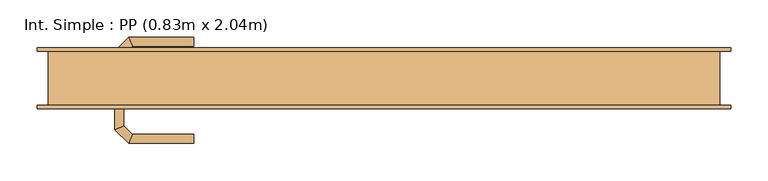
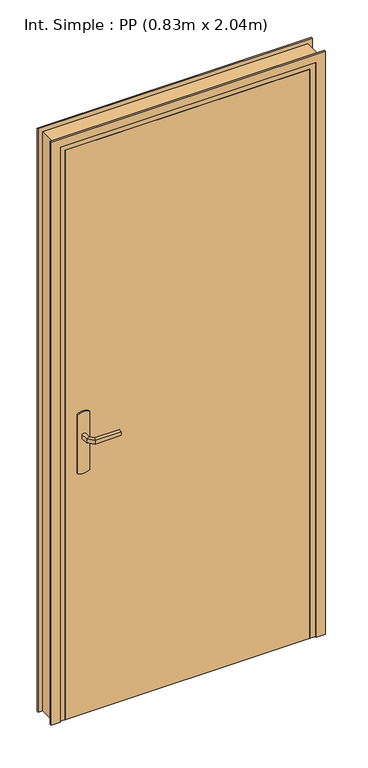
"""IFC4 building model written with IfcOpenShell, lengths in millimetres: door geometry, Int. Simple : PP (0.83m x 2.04m)."""

from ifc_helpers import new_model, si_unit, point, frame, frame_2d, origin, origin_with_axes, place, context, project, spatial, polyline, circle_curve, ellipse_curve, trimmed, segment, composite_curve, outline, extrude, faceted_brep, source, transform, mapped, element, save
from ifc_brep_helpers import plane_surface, cylinder_surface, advanced_brep


def int_simple_pp_0_83m_x_2_04m_f50dcbdd(model_context):
    return source(origin(), model_context, "Body", "SolidModel", [
        extrude(outline(composite_curve([segment(trimmed(circle_curve(frame_2d((904.6410162, -390.0)), 40.0), [point((870.0, -410.0))], [point((870.0, -370.0))], False, "CARTESIAN"), True, "CONTINUOUS"), segment(polyline([(870.0, -370.0), (1080.0, -370.0)]), True, "CONTINUOUS"), segment(trimmed(circle_curve(frame_2d((1045.3589838, -390.0)), 40.0), [point((1080.0, -370.0))], [point((1080.0, -410.0))], False, "CARTESIAN"), True, "CONTINUOUS"), segment(polyline([(1080.0, -410.0), (870.0, -410.0)]), True, "CONTINUOUS")], self_intersect=False)), frame((0.0, -41.0, 0.0), z_axis=(0.0, 1.0, 0.0), x_axis=(0.0, 0.0, 1.0)), (0.0, 0.0, 1.0), 5.0),
        extrude(outline(composite_curve([segment(trimmed(circle_curve(frame_2d((1045.3589838, -390.0)), 40.0), [point((1080.0, -370.0))], [point((1080.0, -410.0))], False, "CARTESIAN"), True, "CONTINUOUS"), segment(polyline([(1080.0, -410.0), (870.0, -410.0)]), True, "CONTINUOUS"), segment(trimmed(circle_curve(frame_2d((904.6410162, -390.0)), 40.0), [point((870.0, -410.0))], [point((870.0, -370.0))], False, "CARTESIAN"), True, "CONTINUOUS"), segment(polyline([(870.0, -370.0), (1080.0, -370.0)]), True, "CONTINUOUS")], self_intersect=False)), frame((0.0, 4.0, 0.0), z_axis=(0.0, 1.0, 0.0), x_axis=(0.0, 0.0, 1.0)), (0.0, 0.0, 1.0), 5.0),
        advanced_brep(
        [(-396.0, -41.0, 1007.0), (-384.0, -41.0, 1007.0), (-384.0, -41.0, 993.0), (-396.0, -41.0, 993.0), (-396.0, -68.6509507, 1007.0), (-384.0, -63.680388, 1007.0), (-384.0, -63.680388, 993.0), (-396.0, -68.6509507, 993.0), (-377.62279, -87.0281607, 1007.0), (-372.6522273, -75.0281607, 1007.0), (-372.6522273, -75.0281607, 993.0), (-377.62279, -87.0281607, 993.0), (-289.9813594, -87.0281607, 1007.0), (-289.9813594, -87.0281607, 993.0), (-289.9813594, -75.0281607, 993.0), (-289.9813594, -75.0281607, 1007.0)],
        [
            (0, 1, circle_curve(frame((-390.0, -41.0, 986.9542278), z_axis=(0.0, 1.0, 0.0), x_axis=(1.0, 0.0, 0.0)), 20.9244589)),
            (1, 2),
            (2, 3, circle_curve(frame((-390.0, -41.0, 1013.0457722), z_axis=(0.0, 1.0, 0.0), x_axis=(1.0, 0.0, 0.0)), 20.9244589)),
            (3, 0),
            (0, 4),
            (4, 5, ellipse_curve(frame((-390.0, -66.1656693, 986.9542278), z_axis=(-0.3826834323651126, 0.9238795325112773, 0.0), x_axis=(0.9238795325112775, 0.38268343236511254, 0.0)), 22.6484711, 20.9244589)),
            (5, 1),
            (5, 6),
            (6, 2),
            (6, 7, ellipse_curve(frame((-390.0, -66.1656693, 1013.0457722), z_axis=(-0.3826834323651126, 0.9238795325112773, 0.0), x_axis=(0.9238795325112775, 0.38268343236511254, 0.0)), 22.6484711, 20.9244589)),
            (7, 3),
            (7, 4),
            (4, 8),
            (8, 9, ellipse_curve(frame((-375.1375086, -81.0281607, 986.9542278), z_axis=(-0.9238795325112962, 0.38268343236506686, 0.0), x_axis=(0.3826834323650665, 0.9238795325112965, 0.0)), 22.6484711, 20.9244589)),
            (9, 5),
            (9, 10),
            (10, 6),
            (10, 11, ellipse_curve(frame((-375.1375086, -81.0281607, 1013.0457722), z_axis=(-0.9238795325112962, 0.38268343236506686, 0.0), x_axis=(0.3826834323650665, 0.9238795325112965, 0.0)), 22.6484711, 20.9244589)),
            (11, 7),
            (11, 8),
            (12, 13),
            (13, 14, circle_curve(frame((-289.9813594, -81.0281607, 1013.0457722), z_axis=(1.0, 0.0, 0.0), x_axis=(0.0, 1.0, 0.0)), 20.9244589)),
            (14, 15),
            (15, 12, circle_curve(frame((-289.9813594, -81.0281607, 986.9542278), z_axis=(1.0, 0.0, 0.0), x_axis=(0.0, 1.0, 0.0)), 20.9244589)),
            (8, 12),
            (15, 9),
            (14, 10),
            (13, 11),
        ],
        [
            plane_surface(frame((-399.2195445, -41.0, 1000.0), z_axis=(0.0, 1.0, 0.0), x_axis=(0.0, 0.0, -1.0))),
            cylinder_surface(frame((-390.0, -41.0, 986.9542278), z_axis=(0.0, 1.0, 0.0), x_axis=(1.0, 0.0, 0.0)), 20.9244589),
            plane_surface(frame((-384.0, -41.0, 1007.0), z_axis=(1.0, 0.0, 0.0), x_axis=(0.0, -1.0, 0.0))),
            cylinder_surface(frame((-390.0, -41.0, 1013.0457722), z_axis=(0.0, 1.0, 0.0), x_axis=(1.0, 0.0, 0.0)), 20.9244589),
            plane_surface(frame((-396.0, -41.0, 993.0), z_axis=(-1.0, 0.0, 0.0), x_axis=(0.0, -1.0, 0.0))),
            cylinder_surface(frame((-390.0, -66.1656693, 986.9542278), z_axis=(-0.7071067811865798, 0.7071067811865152, 0.0), x_axis=(0.7071067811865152, 0.7071067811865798, 0.0)), 20.9244589),
            plane_surface(frame((-384.0, -63.680388, 1007.0), z_axis=(0.7071067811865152, 0.7071067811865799, 0.0), x_axis=(0.7071067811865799, -0.7071067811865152, 0.0))),
            cylinder_surface(frame((-390.0, -66.1656693, 1013.0457722), z_axis=(-0.7071067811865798, 0.7071067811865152, 0.0), x_axis=(0.7071067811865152, 0.7071067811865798, 0.0)), 20.9244589),
            plane_surface(frame((-396.0, -68.6509507, 993.0), z_axis=(-0.7071067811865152, -0.7071067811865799, 0.0), x_axis=(0.7071067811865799, -0.7071067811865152, 0.0))),
            plane_surface(frame((-289.9813594, -81.0281607, 990.7804555), z_axis=(1.0, 0.0, 0.0), x_axis=(0.0, 1.0, 0.0))),
            cylinder_surface(frame((-375.1375086, -81.0281607, 986.9542278), z_axis=(-1.0, 0.0, 0.0), x_axis=(0.0, 1.0, 0.0)), 20.9244589),
            plane_surface(frame((-372.6522273, -75.0281607, 1007.0), z_axis=(0.0, 1.0, 0.0), x_axis=(1.0, 0.0, 0.0))),
            cylinder_surface(frame((-375.1375086, -81.0281607, 1013.0457722), z_axis=(-1.0, 0.0, 0.0), x_axis=(0.0, 1.0, 0.0)), 20.9244589),
            plane_surface(frame((-377.62279, -87.0281607, 993.0), z_axis=(0.0, -1.0, 0.0), x_axis=(1.0, 0.0, 0.0))),
        ],
        [
            (0, [[1, 2, 3, 4]]),
            (1, [[-1, 5, 6, 7]]),
            (2, [[-2, -7, 8, 9]]),
            (3, [[-3, -9, 10, 11]]),
            (4, [[-4, -11, 12, -5]]),
            (5, [[-6, 13, 14, 15]]),
            (6, [[-8, -15, 16, 17]]),
            (7, [[-10, -17, 18, 19]]),
            (8, [[-12, -19, 20, -13]]),
            (9, [[21, 22, 23, 24]]),
            (10, [[-14, 25, -24, 26]]),
            (11, [[-16, -26, -23, 27]]),
            (12, [[-18, -27, -22, 28]]),
            (13, [[-20, -28, -21, -25]]),
        ],
    ),
        advanced_brep(
        [(-384.0, 9.0, 993.0), (-384.0, 9.0, 1007.0), (-396.0, 9.0, 1007.0), (-396.0, 9.0, 993.0), (-384.0, 31.4852045, 993.0), (-384.0, 31.4852045, 1007.0), (-396.0, 36.4557673, 1007.0), (-396.0, 36.4557673, 993.0), (-372.5147186, 42.9704859, 993.0), (-372.5147186, 42.9704859, 1007.0), (-377.4852814, 54.9704859, 1007.0), (-377.4852814, 54.9704859, 993.0), (-289.9542163, 42.9704859, 993.0), (-289.9542163, 54.9704859, 993.0), (-289.9542163, 54.9704859, 1007.0), (-289.9542163, 42.9704859, 1007.0)],
        [
            (0, 1),
            (1, 2, circle_curve(frame((-390.0, 9.0, 986.9542278), z_axis=(0.0, -1.0, 0.0), x_axis=(-1.0, 0.0, 0.0)), 20.9244589)),
            (2, 3),
            (3, 0, circle_curve(frame((-390.0, 9.0, 1013.0457722), z_axis=(0.0, -1.0, 0.0), x_axis=(-1.0, 0.0, 0.0)), 20.9244589)),
            (0, 4),
            (4, 5),
            (5, 1),
            (5, 6, ellipse_curve(frame((-390.0, 33.9704859, 986.9542278), z_axis=(-0.3826834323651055, -0.9238795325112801, 0.0), x_axis=(0.9238795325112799, -0.3826834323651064, 0.0)), 22.6484711, 20.9244589)),
            (6, 2),
            (6, 7),
            (7, 3),
            (7, 4, ellipse_curve(frame((-390.0, 33.9704859, 1013.0457722), z_axis=(-0.3826834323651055, -0.9238795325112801, 0.0), x_axis=(0.9238795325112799, -0.3826834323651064, 0.0)), 22.6484711, 20.9244589)),
            (4, 8),
            (8, 9),
            (9, 5),
            (9, 10, ellipse_curve(frame((-375.0, 48.9704859, 986.9542278), z_axis=(-0.9238795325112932, -0.382683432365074, 0.0), x_axis=(0.3826834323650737, -0.9238795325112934, 0.0)), 22.6484711, 20.9244589)),
            (10, 6),
            (10, 11),
            (11, 7),
            (11, 8, ellipse_curve(frame((-375.0, 48.9704859, 1013.0457722), z_axis=(-0.9238795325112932, -0.382683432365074, 0.0), x_axis=(0.3826834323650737, -0.9238795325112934, 0.0)), 22.6484711, 20.9244589)),
            (12, 13, circle_curve(frame((-289.9542163, 48.9704859, 1013.0457722), z_axis=(1.0, 0.0, 0.0), x_axis=(0.0, 1.0, 0.0)), 20.9244589)),
            (13, 14),
            (14, 15, circle_curve(frame((-289.9542163, 48.9704859, 986.9542278), z_axis=(1.0, 0.0, 0.0), x_axis=(0.0, 1.0, 0.0)), 20.9244589)),
            (15, 12),
            (8, 12),
            (15, 9),
            (14, 10),
            (13, 11),
        ],
        [
            plane_surface(frame((-399.2195445, 9.0, 1000.0), z_axis=(0.0, -1.0, 0.0), x_axis=(0.0, 0.0, 1.0))),
            plane_surface(frame((-384.0, 9.0, 993.0), z_axis=(1.0, 0.0, 0.0), x_axis=(0.0, 1.0, 0.0))),
            cylinder_surface(frame((-390.0, 9.0, 986.9542278), z_axis=(0.0, -1.0, 0.0), x_axis=(-1.0, 0.0, 0.0)), 20.9244589),
            plane_surface(frame((-396.0, 9.0, 1007.0), z_axis=(-1.0, 0.0, 0.0), x_axis=(0.0, 1.0, 0.0))),
            cylinder_surface(frame((-390.0, 9.0, 1013.0457722), z_axis=(0.0, -1.0, 0.0), x_axis=(-1.0, 0.0, 0.0)), 20.9244589),
            plane_surface(frame((-384.0, 31.4852045, 993.0), z_axis=(0.7071067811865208, -0.7071067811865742, 0.0), x_axis=(0.7071067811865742, 0.7071067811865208, 0.0))),
            cylinder_surface(frame((-390.0, 33.9704859, 986.9542278), z_axis=(-0.7071067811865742, -0.7071067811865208, 0.0), x_axis=(-0.7071067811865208, 0.7071067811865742, 0.0)), 20.9244589),
            plane_surface(frame((-396.0, 36.4557673, 1007.0), z_axis=(-0.7071067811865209, 0.7071067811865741, 0.0), x_axis=(0.7071067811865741, 0.7071067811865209, 0.0))),
            cylinder_surface(frame((-390.0, 33.9704859, 1013.0457722), z_axis=(-0.7071067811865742, -0.7071067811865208, 0.0), x_axis=(-0.7071067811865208, 0.7071067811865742, 0.0)), 20.9244589),
            plane_surface(frame((-289.9542163, 48.9704859, 990.7804555), z_axis=(1.0, 0.0, 0.0), x_axis=(0.0, 1.0, 0.0))),
            plane_surface(frame((-372.5147186, 42.9704859, 993.0), z_axis=(0.0, -1.0, 0.0), x_axis=(1.0, 0.0, 0.0))),
            cylinder_surface(frame((-375.0, 48.9704859, 986.9542278), z_axis=(-1.0, 0.0, 0.0), x_axis=(0.0, 1.0, 0.0)), 20.9244589),
            plane_surface(frame((-377.4852814, 54.9704859, 1007.0), z_axis=(0.0, 1.0, 0.0), x_axis=(1.0, 0.0, 0.0))),
            cylinder_surface(frame((-375.0, 48.9704859, 1013.0457722), z_axis=(-1.0, 0.0, 0.0), x_axis=(0.0, 1.0, 0.0)), 20.9244589),
        ],
        [
            (0, [[1, 2, 3, 4]]),
            (1, [[-1, 5, 6, 7]]),
            (2, [[-2, -7, 8, 9]]),
            (3, [[-3, -9, 10, 11]]),
            (4, [[-4, -11, 12, -5]]),
            (5, [[-6, 13, 14, 15]]),
            (6, [[-8, -15, 16, 17]]),
            (7, [[-10, -17, 18, 19]]),
            (8, [[-12, -19, 20, -13]]),
            (9, [[21, 22, 23, 24]]),
            (10, [[-14, 25, -24, 26]]),
            (11, [[-16, -26, -23, 27]]),
            (12, [[-18, -27, -22, 28]]),
            (13, [[-20, -28, -21, -25]]),
        ],
    ),
        extrude(outline(polyline([(-450.0, 4.0), (380.0, 4.0), (380.0, -36.0), (-450.0, -36.0), (-450.0, 4.0)])), origin_with_axes(), (0.0, 0.0, 1.0), 2040.0),
        faceted_brep([(-485.0, -36.0, 0.0), (-485.0, 36.0, 0.0), (-435.0, 36.0, 0.0), (-435.0, 4.0, 0.0), (-450.0, 4.0, 0.0), (-450.0, -36.0, 0.0), (-485.0, -36.0, 2075.0), (-485.0, 36.0, 2075.0), (415.0, 36.0, 2075.0), (415.0, 36.0, 0.0), (365.0, 36.0, 0.0), (365.0, 36.0, 2025.0), (-435.0, 36.0, 2025.0), (-435.0, 4.0, 2025.0), (365.0, 4.0, 2025.0), (365.0, 4.0, 0.0), (380.0, 4.0, 0.0), (380.0, 4.0, 2040.0), (-450.0, 4.0, 2040.0), (-450.0, -36.0, 2040.0), (380.0, -36.0, 2040.0), (380.0, -36.0, 0.0), (415.0, -36.0, 0.0), (415.0, -36.0, 2075.0)], [[[0, 1, 2, 3, 4, 5]], [[1, 0, 6, 7]], [[2, 1, 7, 8, 9, 10, 11, 12]], [[3, 2, 12, 13]], [[4, 3, 13, 14, 15, 16, 17, 18]], [[5, 4, 18, 19]], [[0, 5, 19, 20, 21, 22, 23, 6]], [[8, 23, 22, 9]], [[22, 21, 16, 15, 10, 9]], [[14, 11, 10, 15]], [[20, 17, 16, 21]], [[7, 6, 23, 8]], [[13, 12, 11, 14]], [[19, 18, 17, 20]]]),
        extrude(outline(polyline([(0.0, -500.0), (0.0, -470.0), (2060.0, -470.0), (2060.0, 400.0), (0.0, 400.0), (0.0, 430.0), (2090.0, 430.0), (2090.0, -500.0), (0.0, -500.0)])), frame((0.0, -41.0, 0.0), z_axis=(0.0, 1.0, 0.0), x_axis=(0.0, 0.0, 1.0)), (0.0, 0.0, 1.0), 5.0),
        extrude(outline(polyline([(0.0, -500.0), (0.0, -470.0), (2060.0, -470.0), (2060.0, 400.0), (0.0, 400.0), (0.0, 430.0), (2090.0, 430.0), (2090.0, -500.0), (0.0, -500.0)])), frame((0.0, 36.0, 0.0), z_axis=(0.0, 1.0, 0.0), x_axis=(0.0, 0.0, 1.0)), (0.0, 0.0, 1.0), 5.0),
    ])


if __name__ == "__main__":
    model = new_model("IFC4")
    model_context = context("Model", 3, world=origin())
    ifc_project = project(units=[si_unit("LENGTHUNIT", "METRE", prefix="MILLI")], contexts=[model_context])
    site = spatial("IfcSite", under=ifc_project)
    building = spatial("IfcBuilding", under=site)
    placement = place(None, origin())
    int_simple_pp_0_83m_x_2_04m_shape = int_simple_pp_0_83m_x_2_04m_f50dcbdd(model_context)
    element("IfcDoor", 1, ObjectType="Int. Simple : PP (0.83m x 2.04m)", at=placement, inside=building, context=model_context, shape_type="MappedRepresentation", body=[
        mapped(int_simple_pp_0_83m_x_2_04m_shape, transform((0.0, 0.0, 0.0), x_axis=(1.0, 0.0, 0.0), y_axis=(0.0, 1.0, 0.0), z_axis=(0.0, 0.0, 1.0))),
    ])
    save(model, "model.ifc")
